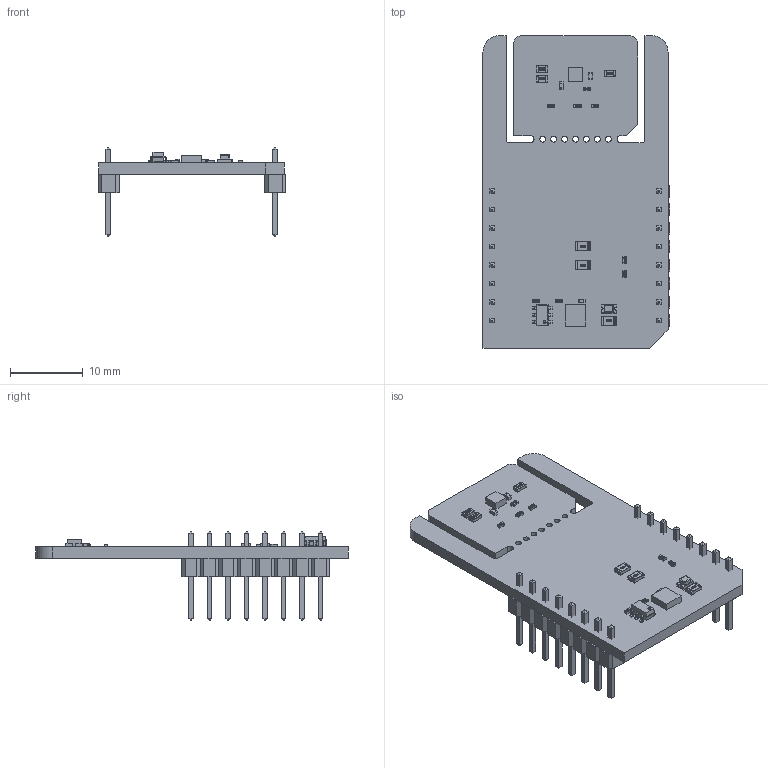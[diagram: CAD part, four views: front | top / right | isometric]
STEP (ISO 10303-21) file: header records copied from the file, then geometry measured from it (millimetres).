
FILE_DESCRIPTION(('Open CASCADE Model'),'2;1');
FILE_NAME('Open CASCADE Shape Model','2026-04-30T15:09:33',('Author'),( 'Open CASCADE'),'Open CASCADE STEP processor 7.5','Open CASCADE 7.5' ,'Unknown');
FILE_SCHEMA(('AUTOMOTIVE_DESIGN { 1 0 10303 214 1 1 1 1 }'));
Length unit declared in the file: millimetre
Products named in the file (41): PCB; Board; Open CASCADE STEP translator 7.5 11.1.1; U3; 9545461104; Extruded; R9; User Library-R_0402; R8; R7; R6; R5; R2; JP5; User Library-R_0603; JP3; User Library-R_0805; JP4; JP2; C3; User Library-SMD CAPACITOR0402; C2; JP1; MBD1; Header 1x8; Free-Models; 1240637040; User_Library-PinHeaderX5-1_PinHeaderX5_Body_1; User_Library-PinHeaderX5-1_PinHeaderX5_Pins_1; R3; R1; LD1; led_0805_green; C1; R4; U1; 9584498768; U2; User Library-SOT23-6-2
Assembly tree (55 placements, depth 7):
  PCB
    Board
      Open CASCADE STEP translator 7.5 11.1.1
    U3
      9545461104
        Extruded
    R9
      User Library-R_0402
    R8
      User Library-R_0402
    R7
      User Library-R_0402
    R6
      User Library-R_0402
    R5
      User Library-R_0402
    R2
      User Library-R_0402
    JP5
      User Library-R_0603
    JP3
      User Library-R_0805
    JP4
      User Library-R_0805
    JP2
      User Library-R_0603
    C3
      User Library-SMD CAPACITOR0402
    C2
      User Library-SMD CAPACITOR0402
    JP1
      User Library-R_0603
    MBD1
      Header 1x8  x2
        PCB
          Free-Models
            1240637040  x2
              User_Library-PinHeaderX5-1_PinHeaderX5_Body_1
              User_Library-PinHeaderX5-1_PinHeaderX5_Pins_1
    R3
      User Library-R_0402
    R1
      User Library-R_0805
    LD1
      led_0805_green
    C1
      User Library-SMD CAPACITOR0402
    R4
      User Library-R_0402
    U1
      9584498768
        Extruded
    U2
      User Library-SOT23-6-2
Bounding box: 25.78 x 42.93 x 12.19 mm (x, y, z)
Volume: 2153.9 mm3; surface area: 3944.3 mm2
Topology: 72 solids, 72 shells, 2076 faces, 5218 edges, 3368 vertices
Faces by surface type: plane 1479, bspline 469, cylinder 98, sphere 30
Full cylindrical faces by diameter (mm): 0.8 x7
Entity records: 29442 total; most frequent: CARTESIAN_POINT 10548, ORIENTED_EDGE 3192, DIRECTION 2665, EDGE_CURVE 1596, LINE 1231, VECTOR 1231, VERTEX_POINT 1028, AXIS2_PLACEMENT_3D 717
